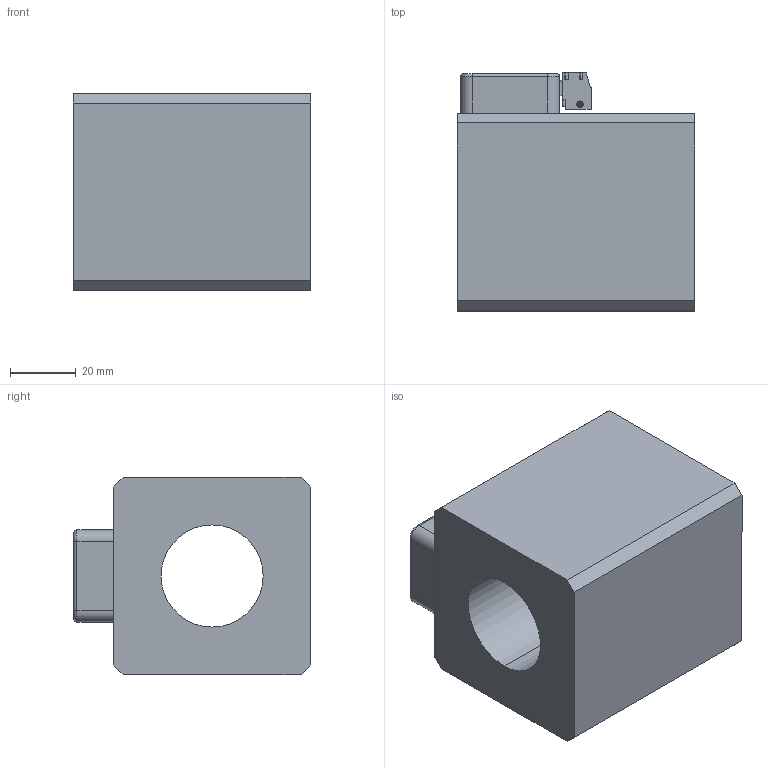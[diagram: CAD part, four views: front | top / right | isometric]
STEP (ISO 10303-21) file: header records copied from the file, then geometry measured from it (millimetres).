
FILE_DESCRIPTION (( 'STEP AP214' ), '1' );
FILE_NAME ('MXS60_31x72-M222b.STEP', '2015-07-17T07:57:12', ( '' ), ( '' ), 'SwSTEP 2.0', 'SolidWorks 2014', '' );
FILE_SCHEMA (( 'AUTOMOTIVE_DESIGN' ));
Length unit declared in the file: millimetre
Products named in the file (2): MXS60_31x72-M222b
Bounding box: 72 x 72.2 x 60 mm (x, y, z)
Volume: 220550.8 mm3; surface area: 39287.1 mm2
Topology: 2 solids, 7 shells, 527 faces, 1391 edges, 884 vertices
Faces by surface type: plane 258, cylinder 205, bspline 28, cone 22, torus 14
Entity records: 22810 total; most frequent: CARTESIAN_POINT 4294, ORIENTED_EDGE 2762, DIRECTION 2525, EDGE_CURVE 1381, VERTEX_POINT 884, VECTOR 875, LINE 875, AXIS2_PLACEMENT_3D 825
